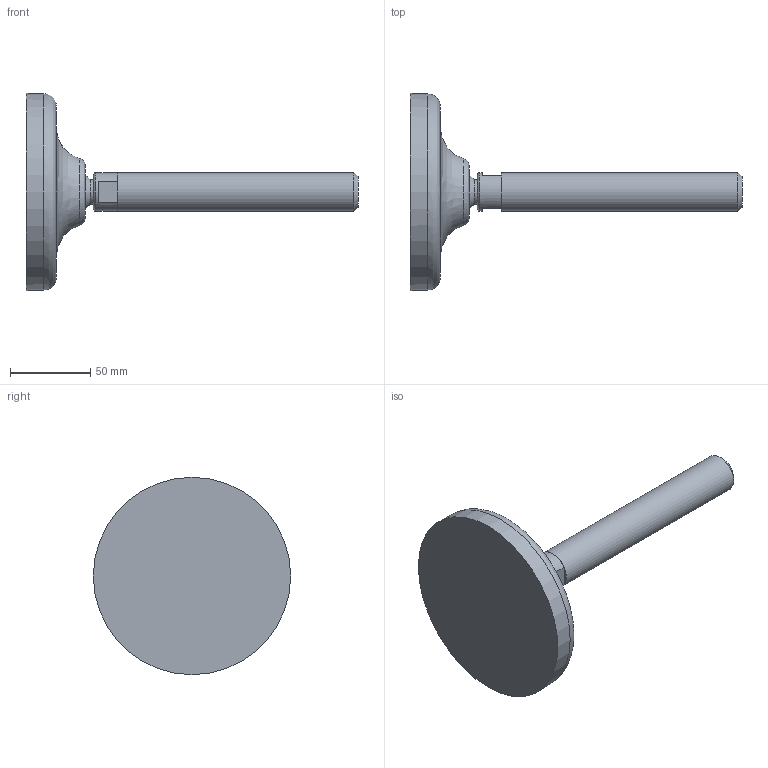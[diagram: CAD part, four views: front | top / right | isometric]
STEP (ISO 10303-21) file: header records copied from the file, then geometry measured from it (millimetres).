
FILE_DESCRIPTION(('STEP AP203'),'2;1');
FILE_NAME('10416.stp','2014-01-24T15:05:25',(''),(''),'2008.1.107','THINKDESIGN','');
FILE_SCHEMA(('CONFIG_CONTROL_DESIGN'));
Length unit declared in the file: millimetre
Bounding box: 207.03 x 123 x 123 mm (x, y, z)
Volume: 329928.5 mm3; surface area: 45822.1 mm2
Topology: 4 solids, 4 shells, 23 faces, 51 edges, 37 vertices
Faces by surface type: plane 13, bspline 7, cylinder 3
Full cylindrical faces by diameter (mm): 15.5 x1, 24 x2
Entity records: 1258 total; most frequent: CARTESIAN_POINT 633, DIRECTION 121, ORIENTED_EDGE 102, AXIS2_PLACEMENT_3D 54, EDGE_CURVE 51, CIRCLE 38, VERTEX_POINT 37, EDGE_LOOP 24
